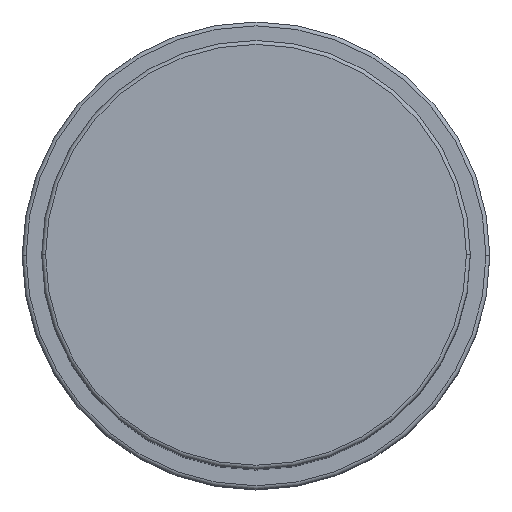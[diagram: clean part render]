
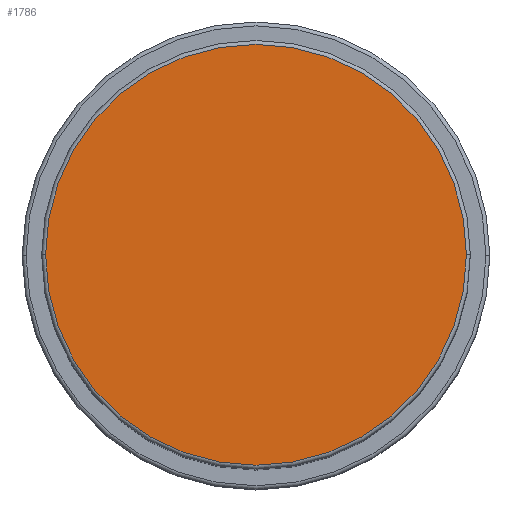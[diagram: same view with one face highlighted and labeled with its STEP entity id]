
A CAD part, top view. The second image highlights one B-rep face of the part: STEP entity #1786.
In plain terms, the highlighted planar face has unit normal (0, 0, 1).
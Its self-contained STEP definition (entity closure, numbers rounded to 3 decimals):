
#5 = CARTESIAN_POINT ( 'NONE',  ( 0., 0., 101. ) ) ;
#21 = DIRECTION ( 'NONE',  ( 0., 0., 1. ) ) ;
#88 = AXIS2_PLACEMENT_3D ( 'NONE', #5, #21, #170 ) ;
#170 = DIRECTION ( 'NONE',  ( 1., 0., 0. ) ) ;
#184 = AXIS2_PLACEMENT_3D ( 'NONE', #807, #1953, #1773 ) ;
#294 = VERTEX_POINT ( 'NONE', #1186 ) ;
#374 = DIRECTION ( 'NONE',  ( 1., 0., 0. ) ) ;
#427 = CIRCLE ( 'NONE', #937, 27. ) ;
#456 = EDGE_CURVE ( 'NONE', #1690, #294, #629, .T. ) ;
#629 = CIRCLE ( 'NONE', #88, 27. ) ;
#807 = CARTESIAN_POINT ( 'NONE',  ( 0., 0., 101. ) ) ;
#825 = ORIENTED_EDGE ( 'NONE', *, *, #1101, .T. ) ;
#937 = AXIS2_PLACEMENT_3D ( 'NONE', #1105, #1760, #374 ) ;
#1101 = EDGE_CURVE ( 'NONE', #294, #1690, #427, .T. ) ;
#1105 = CARTESIAN_POINT ( 'NONE',  ( 0., 0., 101. ) ) ;
#1186 = CARTESIAN_POINT ( 'NONE',  ( -27., 0., 101. ) ) ;
#1249 = CARTESIAN_POINT ( 'NONE',  ( 27., 0., 101. ) ) ;
#1416 = EDGE_LOOP ( 'NONE', ( #1510, #825 ) ) ;
#1510 = ORIENTED_EDGE ( 'NONE', *, *, #456, .T. ) ;
#1690 = VERTEX_POINT ( 'NONE', #1249 ) ;
#1760 = DIRECTION ( 'NONE',  ( 0., 0., 1. ) ) ;
#1772 = FACE_OUTER_BOUND ( 'NONE', #1416, .T. ) ;
#1773 = DIRECTION ( 'NONE',  ( 1., 0., 0. ) ) ;
#1786 = ADVANCED_FACE ( 'NONE', ( #1772 ), #1890, .T. ) ;
#1890 = PLANE ( 'NONE',  #184 ) ;
#1953 = DIRECTION ( 'NONE',  ( 0., 0., 1. ) ) ;
